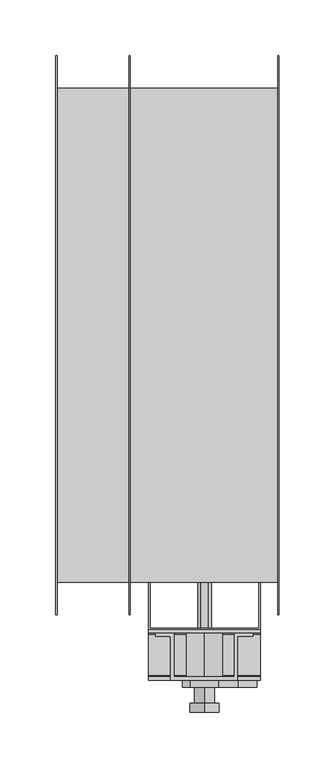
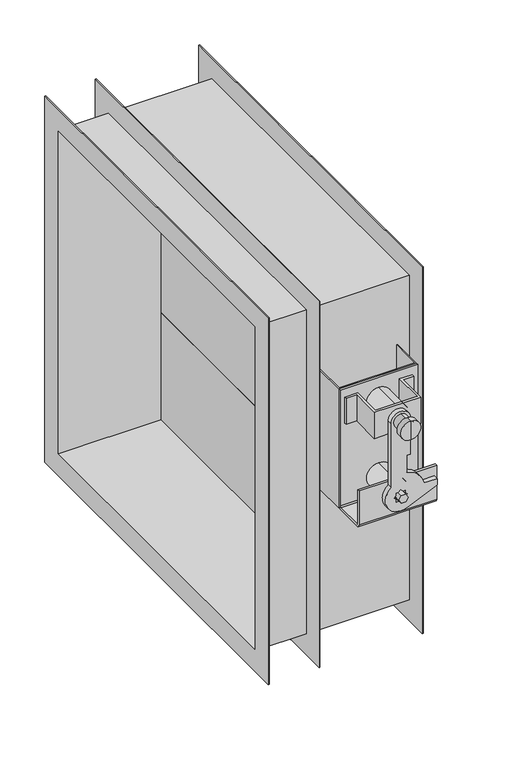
"""IFC4 building model written with IfcOpenShell, lengths in millimetres: damper geometry, СВ_КлапанПротивопожарныйЛифтовой_КДМ-2М-3-ЛС_НЗ_КанальныйПрямоугольный_СВОК : КДМ-2М_Привод ЭМ."""

from ifc_helpers import new_model, si_unit, frame, origin, place, context, project, spatial, polyline, circle_curve, outline, extrude, faceted_brep, source, transform, mapped, element, save
from ifc_brep_helpers import plane_surface, cylinder_surface, revolved_surface, advanced_brep


def damper_fe1c0cd6(model_context):
    return source(origin(), model_context, "Body", "SolidModel", [
        extrude(outline(polyline([(33.9, -220.0), (32.7, -220.0), (32.7, 220.0), (33.9, 220.0), (33.9, -220.0)])), frame((0.0, 0.0, 73.3333333), z_axis=(0.0, 0.0, 1.0), x_axis=(1.0, 0.0, 0.0)), (0.0, 0.0, 1.0), 146.6666667),
        extrude(outline(polyline([(33.9, -220.0), (32.7, -220.0), (32.7, 220.0), (33.9, 220.0), (33.9, -220.0)])), frame((0.0, 0.0, -73.3333333), z_axis=(0.0, 0.0, 1.0), x_axis=(1.0, 0.0, 0.0)), (0.0, 0.0, 1.0), 146.6666667),
        extrude(outline(polyline([(33.9, -220.0), (32.7, -220.0), (32.7, 220.0), (33.9, 220.0), (33.9, -220.0)])), frame((0.0, 0.0, -220.0), z_axis=(0.0, 0.0, 1.0), x_axis=(1.0, 0.0, 0.0)), (0.0, 0.0, 1.0), 146.6666667),
        extrude(outline(polyline([(-15.5298911, -221.2), (-15.5298911, -262.0), (82.1, -262.0), (82.1, -221.2), (83.3, -221.2), (83.3, -263.2), (-16.7298911, -263.2), (-16.7298911, -221.2), (-15.5298911, -221.2)])), frame((0.0, 0.0, -30.0), z_axis=(0.0, 0.0, 1.0), x_axis=(1.0, 0.0, 0.0)), (0.0, 0.0, 1.0), 162.5),
        advanced_brep(
        [(33.3, -337.2, 115.8717586), (33.3, -337.2, 90.1282414), (33.3, -337.2, 103.0), (33.3, -329.322975, 115.8717586), (33.3, -329.322975, 90.1282414), (33.3, -329.322975, 112.0972194), (33.3, -329.322975, 93.9027806), (33.3, -315.2, 112.0972194), (33.3, -315.2, 93.9027806), (33.3, -315.2, 103.0)],
        [
            (0, 1, circle_curve(frame((33.3, -337.2, 103.0), z_axis=(0.0, -1.0, 0.0), x_axis=(0.0, 0.0, -1.0)), 12.8717586)),
            (1, 2),
            (2, 0),
            (1, 0, circle_curve(frame((33.3, -337.2, 103.0), z_axis=(0.0, -1.0, 0.0), x_axis=(0.0, 0.0, -1.0)), 12.8717586)),
            (3, 4, circle_curve(frame((33.3, -329.322975, 103.0), z_axis=(0.0, -1.0, 0.0), x_axis=(0.0, 0.0, -1.0)), 12.8717586)),
            (4, 1),
            (0, 3),
            (4, 3, circle_curve(frame((33.3, -329.322975, 103.0), z_axis=(0.0, -1.0, 0.0), x_axis=(0.0, 0.0, -1.0)), 12.8717586)),
            (5, 6, circle_curve(frame((33.3, -329.322975, 103.0), z_axis=(0.0, -1.0, 0.0), x_axis=(0.0, 0.0, -1.0)), 9.0972194)),
            (6, 4),
            (3, 5),
            (6, 5, circle_curve(frame((33.3, -329.322975, 103.0), z_axis=(0.0, -1.0, 0.0), x_axis=(0.0, 0.0, -1.0)), 9.0972194)),
            (7, 8, circle_curve(frame((33.3, -315.2, 103.0), z_axis=(0.0, -1.0, 0.0), x_axis=(0.0, 0.0, -1.0)), 9.0972194)),
            (8, 6),
            (5, 7),
            (8, 7, circle_curve(frame((33.3, -315.2, 103.0), z_axis=(0.0, -1.0, 0.0), x_axis=(0.0, 0.0, -1.0)), 9.0972194)),
            (9, 8),
            (7, 9),
        ],
        [
            plane_surface(frame((33.3, -337.2, 103.0), z_axis=(0.0, -1.0, 0.0), x_axis=(0.0, 0.0, -1.0))),
            cylinder_surface(frame((33.3, -315.2, 103.0), z_axis=(0.0, 1.0, 0.0), x_axis=(0.0, 0.0, -1.0)), 12.8717586),
            plane_surface(frame((33.3, -329.322975, 103.0), z_axis=(0.0, 1.0, 0.0), x_axis=(0.0, 0.0, -1.0))),
            cylinder_surface(frame((33.3, -315.2, 103.0), z_axis=(0.0, 1.0, 0.0), x_axis=(0.0, 0.0, -1.0)), 9.0972194),
            plane_surface(frame((33.3, -315.2, 103.0), z_axis=(0.0, 1.0, 0.0), x_axis=(0.0, 0.0, -1.0))),
        ],
        [
            (0, [[1, 2, 3]]),
            (0, [[4, -3, -2]]),
            (1, [[5, 6, -1, 7]]),
            (1, [[8, -7, -4, -6]]),
            (2, [[9, 10, -5, 11]]),
            (2, [[12, -11, -8, -10]]),
            (3, [[13, 14, -9, 15]]),
            (3, [[16, -15, -12, -14]]),
            (4, [[17, -13, 18]]),
            (4, [[-18, -16, -17]]),
        ],
    ),
        advanced_brep(
        [(2.92629, -308.6632523, 120.900028), (62.92629, -308.6632523, 120.900028), (62.92629, -269.2, 120.900028), (76.4888336, -269.2, 120.900028), (76.4888336, -266.2, 120.900028), (59.92629, -266.2, 120.900028), (59.92629, -305.6632523, 120.900028), (32.92629, -305.6632523, 120.900028), (5.92629, -305.6632523, 120.900028), (5.92629, -266.2, 120.900028), (-10.6362537, -266.2, 120.900028), (-10.6362537, -269.2, 120.900028), (2.92629, -269.2, 120.900028), (2.92629, -308.6632523, 85.2906263), (2.92629, -269.2, 85.2906263), (-10.6362537, -269.2, 85.2906263), (-10.6362537, -266.2, 85.2906263), (5.92629, -266.2, 85.2906263), (5.92629, -305.6632523, 85.2906263), (32.92629, -305.6632523, 85.2906263), (59.92629, -305.6632523, 85.2906263), (59.92629, -266.2, 85.2906263), (76.4888336, -266.2, 85.2906263), (76.4888336, -269.2, 85.2906263), (62.92629, -269.2, 85.2906263), (62.92629, -308.6632523, 85.2906263), (45.7468236, -308.6632523, 85.2906263), (32.92629, -308.6632523, 85.2906263), (20.8531764, -308.6632523, 85.2906263), (32.92629, -305.6632523, 87.0153496), (33.3, -305.6632523, 87.0109817), (33.3, -305.6632523, 118.9890183), (32.92629, -305.6632523, 118.9846504), (20.8531764, -315.2, 103.0), (20.8531764, -315.2, 15.654922), (41.6218794, -315.2, -18.1864324), (80.0904973, -315.2, -0.5836838), (80.0904973, -315.2, 7.3717785), (63.5857987, -315.2, 7.3717785), (40.9533426, -315.2, 30.2158745), (40.9533426, -315.2, 53.0), (45.7468236, -315.2, 53.0), (45.7468236, -315.2, 103.0), (24.8147186, -315.2, 0.0), (27.3045537, -315.2, 2.4898351), (27.3045537, -315.2, 5.9954463), (30.8101649, -315.2, 5.9954463), (33.3, -315.2, 8.4852814), (35.7898351, -315.2, 5.9954463), (39.2954463, -315.2, 5.9954463), (39.2954463, -315.2, 2.4898351), (41.7852814, -315.2, 0.0), (39.2954463, -315.2, -2.4898351), (39.2954463, -315.2, -5.9954463), (35.7898351, -315.2, -5.9954463), (33.3, -315.2, -8.4852814), (30.8101649, -315.2, -5.9954463), (27.3045537, -315.2, -5.9954463), (27.3045537, -315.2, -2.4898351), (45.7468236, -308.6632523, 53.0), (40.9533426, -308.6632523, 53.0), (40.9533426, -308.6632523, 30.2158745), (56.6544986, -308.6632523, 20.6431616), (20.8531764, -308.6632523, 20.6431616), (45.7468236, -308.6632523, 103.0), (20.8531764, -308.6632523, 103.0), (20.8531764, -308.6632523, 15.654922), (41.6218794, -308.6632523, -18.1864324), (80.0904973, -308.6632523, -0.5836838), (80.0904973, -308.6632523, 7.3717785), (63.5857987, -308.6632523, 7.3717785), (33.3, -305.6632523, -15.9890183), (33.3, -266.2, -15.9890183), (33.3, -266.2, 15.9890183), (33.3, -305.6632523, 15.9890183), (33.3, -266.2, 87.0109817), (33.3, -266.2, 118.9890183), (83.3, -263.2, -25.5), (83.3, -263.2, 132.5), (83.3, -266.2, 132.5), (83.3, -266.2, -25.5), (83.3, -267.7, -27.0), (83.3, -304.1337407, -27.0), (83.3, -305.6632523, -25.4704884), (83.3, -305.6632523, 20.6431616), (83.3, -308.6632523, 20.6431616), (83.3, -308.6632523, -25.4704884), (83.3, -304.1337407, -30.0), (83.3, -267.7, -30.0), (-16.7, -263.2, -25.5), (-16.7, -267.7, -30.0), (-16.7, -304.1337407, -30.0), (-16.7, -308.6632523, -25.4704884), (-16.7, -308.6632523, 20.6431616), (-16.7, -305.6632523, 20.6431616), (-16.7, -305.6632523, -25.4704884), (-16.7, -304.1337407, -27.0), (-16.7, -267.7, -27.0), (-16.7, -266.2, -25.5), (-16.7, -266.2, 132.5), (-16.7, -263.2, 132.5), (27.3045537, -263.2, 2.4898351), (24.8147186, -263.2, 0.0), (27.3045537, -263.2, -2.4898351), (27.3045537, -263.2, -5.9954463), (30.8101649, -263.2, -5.9954463), (33.3, -263.2, -8.4852814), (35.7898351, -263.2, -5.9954463), (39.2954463, -263.2, -5.9954463), (39.2954463, -263.2, -2.4898351), (41.7852814, -263.2, 0.0), (39.2954463, -263.2, 2.4898351), (39.2954463, -263.2, 5.9954463), (35.7898351, -263.2, 5.9954463), (33.3, -263.2, 8.4852814), (30.8101649, -263.2, 5.9954463), (27.3045537, -263.2, 5.9954463)],
        [
            (0, 1),
            (1, 2),
            (2, 3),
            (3, 4),
            (4, 5),
            (5, 6),
            (6, 7),
            (7, 8),
            (8, 9),
            (9, 10),
            (10, 11),
            (11, 12),
            (12, 0),
            (13, 14),
            (14, 15),
            (15, 16),
            (16, 17),
            (17, 18),
            (18, 19),
            (19, 20),
            (20, 21),
            (21, 22),
            (22, 23),
            (23, 24),
            (24, 25),
            (25, 26),
            (26, 27),
            (27, 28),
            (28, 13),
            (1, 25),
            (24, 2),
            (23, 3),
            (22, 4),
            (5, 21),
            (20, 6),
            (19, 29),
            (29, 30, circle_curve(frame((33.3, -305.6632523, 103.0), z_axis=(0.0, -1.0, 0.0), x_axis=(0.0, 0.0, 1.0)), 15.9890183)),
            (30, 31, circle_curve(frame((33.3, -305.6632523, 103.0), z_axis=(0.0, -1.0, 0.0), x_axis=(0.0, 0.0, 1.0)), 15.9890183)),
            (31, 32, circle_curve(frame((33.3, -305.6632523, 103.0), z_axis=(0.0, -1.0, 0.0), x_axis=(0.0, 0.0, 1.0)), 15.9890183)),
            (32, 7),
            (32, 29, circle_curve(frame((33.3, -305.6632523, 103.0), z_axis=(0.0, -1.0, 0.0), x_axis=(0.0, 0.0, 1.0)), 15.9890183)),
            (18, 8),
            (17, 9),
            (10, 16),
            (15, 11),
            (14, 12),
            (13, 0),
            (33, 34),
            (34, 35, circle_curve(frame((33.3, -315.2, 0.0), z_axis=(0.0, -1.0, 0.0), x_axis=(0.0, 0.0, 1.0)), 20.0)),
            (35, 36),
            (36, 37),
            (37, 38),
            (38, 39, circle_curve(frame((33.3, -315.2, 0.0), z_axis=(0.0, -1.0, 0.0), x_axis=(0.0, 0.0, 1.0)), 31.1700613)),
            (39, 40),
            (40, 41),
            (41, 42),
            (42, 33, circle_curve(frame((33.3, -315.2, 103.0), z_axis=(0.0, -1.0, 0.0), x_axis=(0.0, 0.0, 1.0)), 12.4468236)),
            (43, 44),
            (44, 45),
            (45, 46),
            (46, 47),
            (47, 48),
            (48, 49),
            (49, 50),
            (50, 51),
            (51, 52),
            (52, 53),
            (53, 54),
            (54, 55),
            (55, 56),
            (56, 57),
            (57, 58),
            (58, 43),
            (59, 60),
            (60, 61),
            (61, 62, circle_curve(frame((33.3, -308.6632523, 0.0), z_axis=(0.0, 1.0, 0.0), x_axis=(0.0, 0.0, 1.0)), 31.1700613)),
            (62, 63),
            (63, 28),
            (26, 59),
            (42, 64),
            (64, 65, circle_curve(frame((33.3, -308.6632523, 103.0), z_axis=(0.0, -1.0, 0.0), x_axis=(0.0, 0.0, 1.0)), 12.4468236)),
            (65, 33),
            (34, 66),
            (66, 67, circle_curve(frame((33.3, -308.6632523, 0.0), z_axis=(0.0, -1.0, 0.0), x_axis=(0.0, 0.0, 1.0)), 20.0)),
            (67, 35),
            (65, 28),
            (63, 66),
            (36, 68),
            (68, 69),
            (69, 37),
            (69, 70),
            (70, 38),
            (70, 62, circle_curve(frame((33.3, -308.6632523, 0.0), z_axis=(0.0, -1.0, 0.0), x_axis=(0.0, 0.0, 1.0)), 31.1700613)),
            (61, 39),
            (60, 40),
            (59, 41),
            (26, 64),
            (71, 72),
            (72, 73, circle_curve(frame((33.3, -266.2, 0.0), z_axis=(0.0, -1.0, 0.0), x_axis=(0.0, 0.0, 1.0)), 15.9890183)),
            (73, 74),
            (74, 71, circle_curve(frame((33.3, -305.6632523, 0.0), z_axis=(0.0, 1.0, 0.0), x_axis=(0.0, 0.0, 1.0)), 15.9890183)),
            (71, 74, circle_curve(frame((33.3, -305.6632523, 0.0), z_axis=(0.0, 1.0, 0.0), x_axis=(0.0, 0.0, 1.0)), 15.9890183)),
            (73, 72, circle_curve(frame((33.3, -266.2, 0.0), z_axis=(0.0, -1.0, 0.0), x_axis=(0.0, 0.0, 1.0)), 15.9890183)),
            (75, 76, circle_curve(frame((33.3, -266.2, 103.0), z_axis=(0.0, -1.0, 0.0), x_axis=(0.0, 0.0, 1.0)), 15.9890183)),
            (76, 31),
            (30, 75),
            (76, 75, circle_curve(frame((33.3, -266.2, 103.0), z_axis=(0.0, -1.0, 0.0), x_axis=(0.0, 0.0, 1.0)), 15.9890183)),
            (77, 78),
            (78, 79),
            (79, 80),
            (80, 81, circle_curve(frame((83.3, -267.7, -25.5), z_axis=(-1.0, 0.0, 0.0), x_axis=(0.0, 0.0, 1.0)), 1.5)),
            (81, 82),
            (82, 83, circle_curve(frame((83.3, -304.1337407, -25.4704884), z_axis=(-1.0, 0.0, 0.0), x_axis=(0.0, 0.0, 1.0)), 1.5295116)),
            (83, 84),
            (84, 85),
            (85, 86),
            (86, 87, circle_curve(frame((83.3, -304.1337407, -25.4704884), z_axis=(1.0, 0.0, 0.0), x_axis=(0.0, 0.0, 1.0)), 4.5295116)),
            (87, 88),
            (88, 77, circle_curve(frame((83.3, -267.7, -25.5), z_axis=(1.0, 0.0, 0.0), x_axis=(0.0, 0.0, 1.0)), 4.5)),
            (89, 90, circle_curve(frame((-16.7, -267.7, -25.5), z_axis=(-1.0, 0.0, 0.0), x_axis=(0.0, 0.0, 1.0)), 4.5)),
            (90, 91),
            (91, 92, circle_curve(frame((-16.7, -304.1337407, -25.4704884), z_axis=(-1.0, 0.0, 0.0), x_axis=(0.0, 0.0, 1.0)), 4.5295116)),
            (92, 93),
            (93, 94),
            (94, 95),
            (95, 96, circle_curve(frame((-16.7, -304.1337407, -25.4704884), z_axis=(1.0, 0.0, 0.0), x_axis=(0.0, 0.0, 1.0)), 1.5295116)),
            (96, 97),
            (97, 98, circle_curve(frame((-16.7, -267.7, -25.5), z_axis=(1.0, 0.0, 0.0), x_axis=(0.0, 0.0, 1.0)), 1.5)),
            (98, 99),
            (99, 100),
            (100, 89),
            (77, 89),
            (100, 78),
            (101, 102),
            (102, 103),
            (103, 104),
            (104, 105),
            (105, 106),
            (106, 107),
            (107, 108),
            (108, 109),
            (109, 110),
            (110, 111),
            (111, 112),
            (112, 113),
            (113, 114),
            (114, 115),
            (115, 116),
            (116, 101),
            (99, 79),
            (98, 80),
            (97, 81),
            (96, 82),
            (95, 83),
            (94, 84),
            (93, 63),
            (62, 85),
            (68, 67),
            (92, 86),
            (91, 87),
            (90, 88),
            (101, 44),
            (43, 102),
            (58, 103),
            (57, 104),
            (56, 105),
            (55, 106),
            (54, 107),
            (53, 108),
            (52, 109),
            (51, 110),
            (50, 111),
            (49, 112),
            (48, 113),
            (47, 114),
            (46, 115),
            (45, 116),
        ],
        [
            plane_surface(frame((2.92629, -308.6632523, 120.900028), z_axis=(0.0, 0.0, 1.0), x_axis=(1.0, 0.0, 0.0))),
            plane_surface(frame((2.92629, -308.6632523, 85.2906263), z_axis=(0.0, 0.0, -1.0), x_axis=(-1.0, 0.0, 0.0))),
            plane_surface(frame((62.92629, -308.6632523, 120.900028), z_axis=(1.0, 0.0, 0.0), x_axis=(0.0, 0.0, -1.0))),
            plane_surface(frame((62.92629, -269.2, 120.900028), z_axis=(0.0, -1.0, 0.0), x_axis=(0.0, 0.0, -1.0))),
            plane_surface(frame((76.4888336, -269.2, 120.900028), z_axis=(1.0, 0.0, 0.0), x_axis=(0.0, 0.0, -1.0))),
            plane_surface(frame((59.92629, -266.2, 120.900028), z_axis=(-1.0, 0.0, 0.0), x_axis=(0.0, 0.0, -1.0))),
            plane_surface(frame((59.92629, -305.6632523, 120.900028), z_axis=(0.0, 1.0, 0.0), x_axis=(0.0, 0.0, -1.0))),
            plane_surface(frame((32.92629, -305.6632523, 120.900028), z_axis=(0.0, 1.0, 0.0), x_axis=(0.0, 0.0, -1.0))),
            plane_surface(frame((5.92629, -305.6632523, 120.900028), z_axis=(1.0, 0.0, 0.0), x_axis=(0.0, 0.0, -1.0))),
            plane_surface(frame((-10.6362537, -266.2, 120.900028), z_axis=(-1.0, 0.0, 0.0), x_axis=(0.0, 0.0, -1.0))),
            plane_surface(frame((-10.6362537, -269.2, 120.900028), z_axis=(0.0, -1.0, 0.0), x_axis=(0.0, 0.0, -1.0))),
            plane_surface(frame((2.92629, -269.2, 120.900028), z_axis=(-1.0, 0.0, 0.0), x_axis=(0.0, 0.0, -1.0))),
            plane_surface(frame((20.8531764, -315.2, 103.0), z_axis=(0.0, -1.0, 0.0), x_axis=(0.0, 0.0, -1.0))),
            plane_surface(frame((20.8531764, -308.6632523, 103.0), z_axis=(0.0, 1.0, 0.0), x_axis=(0.0, 0.0, 1.0))),
            cylinder_surface(frame((33.3, -308.6632523, 103.0), z_axis=(0.0, -1.0, 0.0), x_axis=(0.0, 0.0, 1.0)), 12.4468236),
            cylinder_surface(frame((33.3, -308.6632523, 0.0), z_axis=(0.0, -1.0, 0.0), x_axis=(0.0, 0.0, 1.0)), 20.0),
            plane_surface(frame((20.8531764, -315.2, 103.0), z_axis=(-1.0, 0.0, 0.0), x_axis=(0.0, 1.0, 0.0))),
            plane_surface(frame((80.0904973, -315.2, -0.5836838), z_axis=(1.0, 0.0, 0.0), x_axis=(0.0, 1.0, 0.0))),
            plane_surface(frame((80.0904973, -315.2, 7.3717785), z_axis=(0.0, 0.0, 1.0), x_axis=(0.0, 1.0, 0.0))),
            cylinder_surface(frame((33.3, -308.6632523, 0.0), z_axis=(0.0, -1.0, 0.0), x_axis=(0.0, 0.0, 1.0)), 31.1700613),
            plane_surface(frame((40.9533426, -315.2, 30.2158745), z_axis=(1.0, 0.0, 0.0), x_axis=(0.0, 1.0, 0.0))),
            plane_surface(frame((40.9533426, -315.2, 53.0), z_axis=(0.0, 0.0, -1.0), x_axis=(0.0, 1.0, 0.0))),
            plane_surface(frame((45.7468236, -315.2, 53.0), z_axis=(1.0, 0.0, 0.0), x_axis=(0.0, 1.0, 0.0))),
            plane_surface(frame((33.3, -308.6632523, 15.9890183), z_axis=(0.0, -1.0, 0.0), x_axis=(-1.0, 0.0, 0.0))),
            cylinder_surface(frame((33.3, -266.2, 0.0), z_axis=(0.0, -1.0, 0.0), x_axis=(0.0, 0.0, 1.0)), 15.9890183),
            cylinder_surface(frame((33.3, -221.2, 103.0), z_axis=(0.0, -1.0, 0.0), x_axis=(0.0, 0.0, 1.0)), 15.9890183),
            plane_surface(frame((83.3, -263.2, 132.5), z_axis=(1.0, 0.0, 0.0), x_axis=(0.0, 0.0, 1.0))),
            plane_surface(frame((-16.7, -263.2, 132.5), z_axis=(-1.0, 0.0, 0.0), x_axis=(0.0, 0.0, -1.0))),
            plane_surface(frame((83.3, -263.2, -25.5), z_axis=(0.0, 1.0, 0.0), x_axis=(-1.0, 0.0, 0.0))),
            plane_surface(frame((83.3, -263.2, 132.5), z_axis=(0.0, 0.0, 1.0), x_axis=(-1.0, 0.0, 0.0))),
            plane_surface(frame((83.3, -266.2, 132.5), z_axis=(0.0, -1.0, 0.0), x_axis=(-1.0, 0.0, 0.0))),
            revolved_surface(polyline([(-16.7, -267.7, -24.0), (83.3, -267.7, -24.0)]), (-16.7, -267.7, -25.5), (-1.0, 0.0, 0.0)),
            plane_surface(frame((83.3, -267.7, -27.0), z_axis=(0.0, 0.0, 1.0), x_axis=(-1.0, 0.0, 0.0))),
            revolved_surface(polyline([(-16.7, -304.1337407, -23.9409768), (83.3, -304.1337407, -23.9409768)]), (-16.7, -304.1337407, -25.4704884), (-1.0, 0.0, 0.0)),
            plane_surface(frame((83.3, -305.6632523, -25.4704884), z_axis=(0.0, 1.0, 0.0), x_axis=(-1.0, 0.0, 0.0))),
            plane_surface(frame((83.3, -305.6632523, 20.6431616), z_axis=(0.0, 0.0, 1.0), x_axis=(-1.0, 0.0, 0.0))),
            plane_surface(frame((83.3, -308.6632523, 20.6431616), z_axis=(0.0, -1.0, 0.0), x_axis=(-1.0, 0.0, 0.0))),
            cylinder_surface(frame((-16.7, -304.1337407, -25.4704884), z_axis=(1.0, 0.0, 0.0), x_axis=(0.0, 0.0, 1.0)), 4.5295116),
            plane_surface(frame((83.3, -304.1337407, -30.0), z_axis=(0.0, 0.0, -1.0), x_axis=(-1.0, 0.0, 0.0))),
            cylinder_surface(frame((-16.7, -267.7, -25.5), z_axis=(1.0, 0.0, 0.0), x_axis=(0.0, 0.0, 1.0)), 4.5),
            plane_surface(frame((41.6218794, -315.2, -18.1864324), z_axis=(0.4160939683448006, 0.0, -0.9093216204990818), x_axis=(0.0, 1.0, 0.0))),
            plane_surface(frame((27.3045537, -321.2, 2.4898351), z_axis=(0.7071067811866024, 0.0, -0.7071067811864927), x_axis=(0.0, 1.0, 0.0))),
            plane_surface(frame((24.8147186, -321.2, 0.0), z_axis=(0.7071067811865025, 0.0, 0.7071067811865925), x_axis=(0.0, 1.0, 0.0))),
            plane_surface(frame((27.3045537, -321.2, -2.4898351), z_axis=(1.0, 0.0, 0.0), x_axis=(0.0, 1.0, 0.0))),
            plane_surface(frame((27.3045537, -321.2, -5.9954463), z_axis=(0.0, 0.0, 1.0), x_axis=(0.0, 1.0, 0.0))),
            plane_surface(frame((30.8101649, -321.2, -5.9954463), z_axis=(0.707106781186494, 0.0, 0.7071067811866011), x_axis=(0.0, 1.0, 0.0))),
            plane_surface(frame((33.3, -321.2, -8.4852814), z_axis=(-0.7071067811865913, 0.0, 0.7071067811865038), x_axis=(0.0, 1.0, 0.0))),
            plane_surface(frame((35.7898351, -321.2, -5.9954463), z_axis=(0.0, 0.0, 1.0), x_axis=(0.0, 1.0, 0.0))),
            plane_surface(frame((39.2954463, -321.2, -5.9954463), z_axis=(-1.0, 0.0, 0.0), x_axis=(0.0, 1.0, 0.0))),
            plane_surface(frame((39.2954463, -321.2, -2.4898351), z_axis=(-0.7071067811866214, 0.0, 0.7071067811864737), x_axis=(0.0, 1.0, 0.0))),
            plane_surface(frame((41.7852814, -321.2, 0.0), z_axis=(-0.7071067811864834, 0.0, -0.7071067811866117), x_axis=(0.0, 1.0, 0.0))),
            plane_surface(frame((39.2954463, -321.2, 2.4898351), z_axis=(-1.0, 0.0, 0.0), x_axis=(0.0, 1.0, 0.0))),
            plane_surface(frame((39.2954463, -321.2, 5.9954463), z_axis=(0.0, 0.0, -1.0), x_axis=(0.0, 1.0, 0.0))),
            plane_surface(frame((35.7898351, -321.2, 5.9954463), z_axis=(-0.7071067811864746, 0.0, -0.7071067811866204), x_axis=(0.0, 1.0, 0.0))),
            plane_surface(frame((33.3, -321.2, 8.4852814), z_axis=(0.7071067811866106, 0.0, -0.7071067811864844), x_axis=(0.0, 1.0, 0.0))),
            plane_surface(frame((30.8101649, -321.2, 5.9954463), z_axis=(0.0, 0.0, -1.0), x_axis=(0.0, 1.0, 0.0))),
            plane_surface(frame((27.3045537, -321.2, 5.9954463), z_axis=(1.0, 0.0, 0.0), x_axis=(0.0, 1.0, 0.0))),
        ],
        [
            (0, [[1, 2, 3, 4, 5, 6, 7, 8, 9, 10, 11, 12, 13]]),
            (1, [[14, 15, 16, 17, 18, 19, 20, 21, 22, 23, 24, 25, 26, 27, 28, 29]]),
            (2, [[-2, 30, -25, 31]]),
            (3, [[-3, -31, -24, 32]]),
            (4, [[-4, -32, -23, 33]]),
            (5, [[-6, 34, -21, 35]]),
            (6, [[-7, -35, -20, 36, 37, 38, 39, 40]]),
            (7, [[-8, -40, 41, -36, -19, 42]]),
            (8, [[-9, -42, -18, 43]]),
            (9, [[-11, 44, -16, 45]]),
            (10, [[-12, -45, -15, 46]]),
            (11, [[-13, -46, -14, 47]]),
            (12, [[48, 49, 50, 51, 52, 53, 54, 55, 56, 57], [58, 59, 60, 61, 62, 63, 64, 65, 66, 67, 68, 69, 70, 71, 72, 73]]),
            (13, [[74, 75, 76, 77, 78, -28, -27, 79]]),
            (14, [[-57, 80, 81, 82]]),
            (15, [[-49, 83, 84, 85]]),
            (16, [[-48, -82, 86, -78, 87, -83]]),
            (17, [[-51, 88, 89, 90]]),
            (18, [[-52, -90, 91, 92]]),
            (19, [[-53, -92, 93, -76, 94]]),
            (20, [[-54, -94, -75, 95]]),
            (21, [[-55, -95, -74, 96]]),
            (22, [[-56, -96, -79, 97, -80]]),
            (23, [[-26, -30, -1, -47, -29, -86, -81, -97]]),
            (24, [[98, 99, 100, 101]]),
            (24, [[-98, 102, -100, 103]]),
            (25, [[104, 105, -38, 106]]),
            (25, [[107, -106, -37, -41, -39, -105]]),
            (26, [[108, 109, 110, 111, 112, 113, 114, 115, 116, 117, 118, 119]]),
            (27, [[120, 121, 122, 123, 124, 125, 126, 127, 128, 129, 130, 131]]),
            (28, [[-108, 132, -131, 133], [134, 135, 136, 137, 138, 139, 140, 141, 142, 143, 144, 145, 146, 147, 148, 149]]),
            (29, [[-109, -133, -130, 150]]),
            (30, [[-110, -150, -129, 151], [-99, -103], [-104, -107], [-5, -33, -22, -34], [-10, -43, -17, -44]]),
            (31, [[-111, -151, -128, 152]]),
            (32, [[-112, -152, -127, 153]]),
            (33, [[-113, -153, -126, 154]]),
            (34, [[-114, -154, -125, 155], [-101, -102]]),
            (35, [[-115, -155, -124, 156, -77, 157]]),
            (36, [[-116, -157, -93, -91, -89, 158, -84, -87, -156, -123, 159]]),
            (37, [[-117, -159, -122, 160]]),
            (38, [[-118, -160, -121, 161]]),
            (39, [[-119, -161, -120, -132]]),
            (40, [[-50, -85, -158, -88]]),
            (41, [[162, -58, 163, -134]]),
            (42, [[-163, -73, 164, -135]]),
            (43, [[-164, -72, 165, -136]]),
            (44, [[-165, -71, 166, -137]]),
            (45, [[-166, -70, 167, -138]]),
            (46, [[-167, -69, 168, -139]]),
            (47, [[-168, -68, 169, -140]]),
            (48, [[-169, -67, 170, -141]]),
            (49, [[-170, -66, 171, -142]]),
            (50, [[-171, -65, 172, -143]]),
            (51, [[-172, -64, 173, -144]]),
            (52, [[-173, -63, 174, -145]]),
            (53, [[-174, -62, 175, -146]]),
            (54, [[-175, -61, 176, -147]]),
            (55, [[-176, -60, 177, -148]]),
            (56, [[-162, -149, -177, -59]]),
        ],
    ),
        extrude(outline(polyline([(5.1832695, 36.2925621), (5.1832695, 30.3074379), (0.0, 27.3148759), (-5.1832695, 30.3074379), (-5.1832695, 36.2925621), (0.0, 39.2851241), (5.1832695, 36.2925621)])), frame((0.0, -321.2, 0.0), z_axis=(0.0, 1.0, 0.0), x_axis=(0.0, 0.0, 1.0)), (0.0, 0.0, 1.0), 100.0),
        faceted_brep([(-100.0, -250.0, 250.0), (-100.0, 250.0, 250.0), (-100.0, 250.0, -250.0), (-100.0, -250.0, -250.0), (-100.0, -220.0, 220.0), (-100.0, -220.0, -220.0), (-100.0, 220.0, -220.0), (-100.0, 220.0, 220.0), (-98.8, -250.0, 250.0), (-98.8, -250.0, -250.0), (-98.8, 250.0, -250.0), (-98.8, 250.0, 250.0), (-98.8, -221.2, 221.2), (-98.8, 221.2, 221.2), (-98.8, 221.2, -221.2), (-98.8, -221.2, -221.2), (100.0, -250.0, 250.0), (100.0, -250.0, -250.0), (100.0, 250.0, -250.0), (100.0, 250.0, 250.0), (100.0, -220.0, 220.0), (100.0, 220.0, 220.0), (100.0, 220.0, -220.0), (100.0, -220.0, -220.0), (-34.5333333, -221.2, 221.2), (-34.5333333, 221.2, 221.2), (98.8, -221.2, 221.2), (98.8, 221.2, 221.2), (-33.3333333, 221.2, 221.2), (-33.3333333, -221.2, 221.2), (-34.5333333, -221.2, -221.2), (98.8, -221.2, -221.2), (-33.3333333, -221.2, -221.2), (-34.5333333, 221.2, -221.2), (98.8, 221.2, -221.2), (-33.3333333, 221.2, -221.2), (-34.5333333, 220.0, 220.0), (-33.3333333, 220.0, 220.0), (98.8, 220.0, 220.0), (98.8, -220.0, 220.0), (-33.3333333, -220.0, 220.0), (-34.5333333, -220.0, 220.0), (-34.5333333, 220.0, -220.0), (-33.3333333, 220.0, -220.0), (98.8, 220.0, -220.0), (-34.5333333, -220.0, -220.0), (-33.3333333, -220.0, -220.0), (98.8, -220.0, -220.0), (98.8, -250.0, 250.0), (98.8, 250.0, 250.0), (98.8, 250.0, -250.0), (98.8, -250.0, -250.0), (-34.5333333, -250.0, 250.0), (-34.5333333, 250.0, 250.0), (-34.5333333, 250.0, -250.0), (-34.5333333, -250.0, -250.0), (-33.3333333, -250.0, 250.0), (-33.3333333, -250.0, -250.0), (-33.3333333, 250.0, -250.0), (-33.3333333, 250.0, 250.0)], [[[0, 1, 2, 3], [4, 5, 6, 7]], [[8, 9, 10, 11], [12, 13, 14, 15]], [[16, 17, 18, 19], [20, 21, 22, 23]], [[13, 12, 24, 25]], [[26, 27, 28, 29]], [[12, 15, 30, 24]], [[31, 26, 29, 32]], [[15, 14, 33, 30]], [[34, 31, 32, 35]], [[14, 13, 25, 33]], [[27, 34, 35, 28]], [[4, 7, 36, 37, 38, 21, 20, 39, 40, 41]], [[7, 6, 42, 43, 44, 22, 21, 38, 37, 36]], [[6, 5, 45, 46, 47, 23, 22, 44, 43, 42]], [[5, 4, 41, 40, 39, 20, 23, 47, 46, 45]], [[0, 3, 9, 8]], [[3, 2, 10, 9]], [[2, 1, 11, 10]], [[1, 0, 8, 11]], [[48, 49, 50, 51], [27, 26, 31, 34]], [[48, 51, 17, 16]], [[51, 50, 18, 17]], [[50, 49, 19, 18]], [[49, 48, 16, 19]], [[52, 53, 54, 55], [25, 24, 30, 33]], [[56, 57, 58, 59], [29, 28, 35, 32]], [[52, 55, 57, 56]], [[55, 54, 58, 57]], [[54, 53, 59, 58]], [[53, 52, 56, 59]]]),
    ])


if __name__ == "__main__":
    model = new_model("IFC4")
    model_context = context("Model", 3, world=origin())
    ifc_project = project(units=[si_unit("LENGTHUNIT", "METRE", prefix="MILLI")], contexts=[model_context])
    site = spatial("IfcSite", under=ifc_project)
    building = spatial("IfcBuilding", under=site)
    placement = place(None, origin())
    damper_shape = damper_fe1c0cd6(model_context)
    element("IfcDamper", 1, ObjectType="СВ_КлапанПротивопожарныйЛифтовой_КДМ-2М-3-ЛС_НЗ_КанальныйПрямоугольный_СВОК : КДМ-2М_Привод ЭМ", at=placement, inside=building, context=model_context, shape_type="MappedRepresentation", body=[
        mapped(damper_shape, transform((0.0, 0.0, 0.0), x_axis=(1.0, 0.0, 0.0), y_axis=(0.0, 1.0, 0.0), z_axis=(0.0, 0.0, 1.0))),
    ])
    save(model, "model.ifc")
